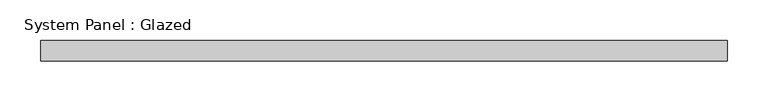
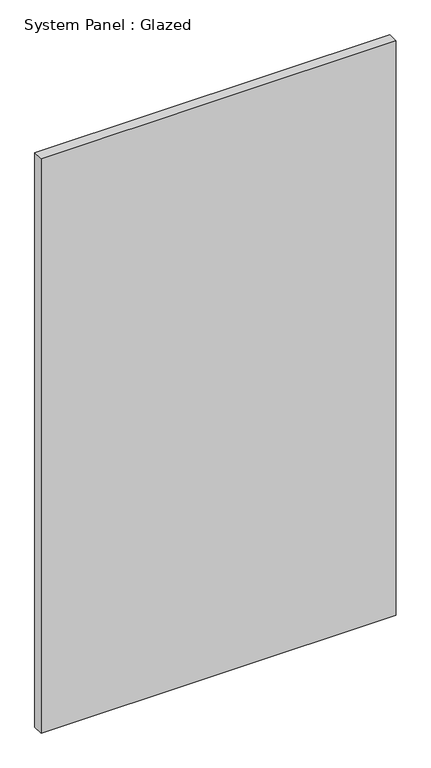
"""IFC4 building model written with IfcOpenShell, lengths in millimetres: plate geometry, System Panel : Glazed."""

from ifc_helpers import new_model, si_unit, origin, origin_with_axes, place, context, project, spatial, polyline, outline, extrude, source, transform, mapped, element, save


def system_panel_glazed_bf61f423(model_context):
    return source(origin(), model_context, "Body", "SweptSolid", [
        extrude(outline(polyline([(419.7, 24.5), (-419.7, 24.5), (-419.7, 49.5), (419.7, 49.5), (419.7, 24.5)])), origin_with_axes(), (0.0, 0.0, 1.0), 1435.6),
    ])


if __name__ == "__main__":
    model = new_model("IFC4")
    model_context = context("Model", 3, world=origin())
    ifc_project = project(units=[si_unit("LENGTHUNIT", "METRE", prefix="MILLI")], contexts=[model_context])
    site = spatial("IfcSite", under=ifc_project)
    building = spatial("IfcBuilding", under=site)
    placement = place(None, origin())
    system_panel_glazed_shape = system_panel_glazed_bf61f423(model_context)
    element("IfcPlate", 1, ObjectType="System Panel : Glazed", at=placement, inside=building, context=model_context, shape_type="MappedRepresentation", body=[
        mapped(system_panel_glazed_shape, transform((0.0, 0.0, 0.0), x_axis=(1.0, 0.0, 0.0), y_axis=(0.0, 1.0, 0.0), z_axis=(0.0, 0.0, 1.0))),
    ])
    save(model, "model.ifc")
